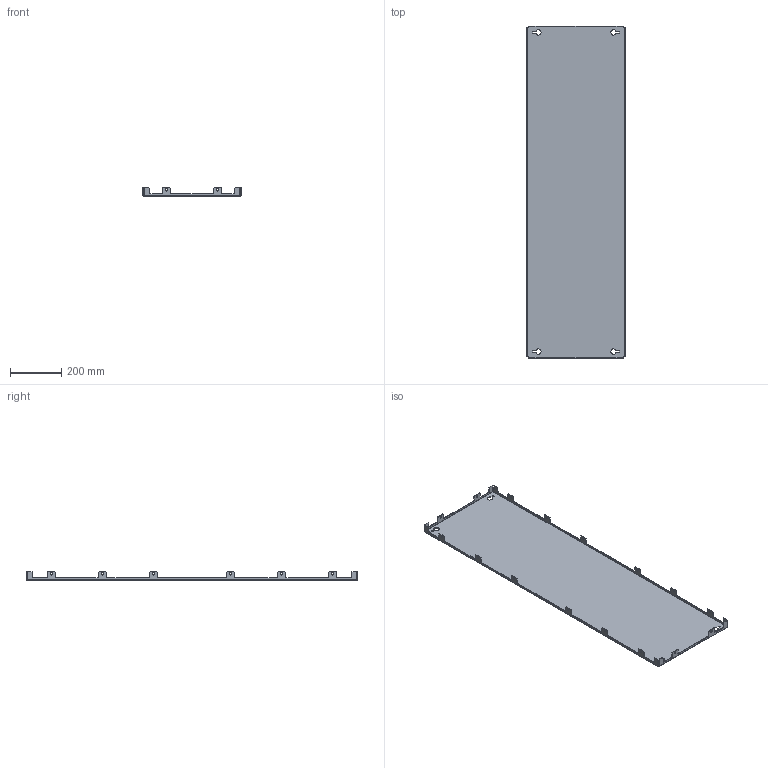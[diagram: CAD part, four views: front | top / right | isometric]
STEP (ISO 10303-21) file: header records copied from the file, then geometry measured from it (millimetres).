
FILE_DESCRIPTION (( 'STEP AP203' ), '1' );
FILE_NAME ('R5LPS1405.STEP', '2021-12-17T12:33:50', ( '' ), ( '' ), 'SwSTEP 2.0', 'SolidWorks 2020', '' );
FILE_SCHEMA (( 'CONFIG_CONTROL_DESIGN' ));
Length unit declared in the file: millimetre
Products named in the file (1): R5LPS1405
Bounding box: 384 x 1298 x 32.5 mm (x, y, z)
Volume: 1069484.5 mm3; surface area: 1079865.2 mm2
Topology: 1 solids, 1 shells, 328 faces, 946 edges, 620 vertices
Faces by surface type: plane 210, cylinder 118
Entity records: 10887 total; most frequent: CARTESIAN_POINT 1895, ORIENTED_EDGE 1892, DIRECTION 1840, EDGE_CURVE 946, VECTOR 710, LINE 710, VERTEX_POINT 620, AXIS2_PLACEMENT_3D 565
